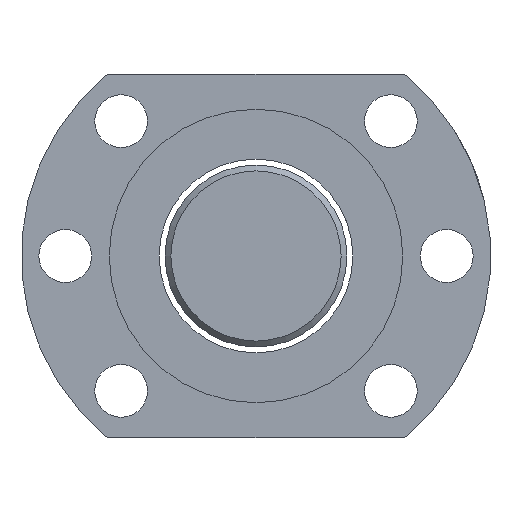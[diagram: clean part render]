
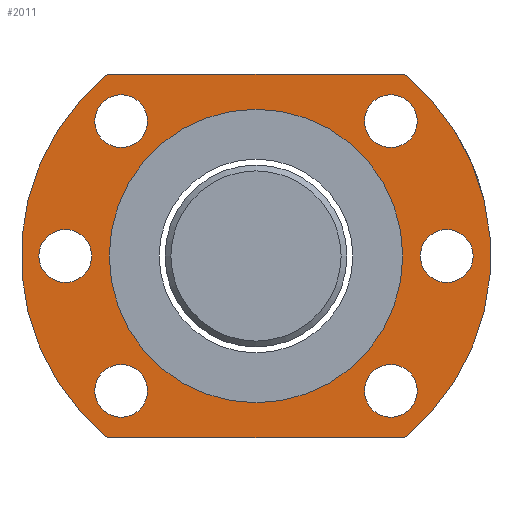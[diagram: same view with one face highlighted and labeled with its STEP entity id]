
A CAD part, left-side view. The second image highlights one B-rep face of the part: STEP entity #2011.
In plain terms, the highlighted planar face has unit normal (-1, 0, 0).
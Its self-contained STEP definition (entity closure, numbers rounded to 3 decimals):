
#3 = DIRECTION ( 'NONE',  ( 0., 0., 1. ) ) ;
#4 = CIRCLE ( 'NONE', #2417, 25. ) ;
#18 = DIRECTION ( 'NONE',  ( 0., 0., 1. ) ) ;
#48 = CARTESIAN_POINT ( 'NONE',  ( -57.175, -48.743, -3.875 ) ) ;
#78 = DIRECTION ( 'NONE',  ( 0., 0., 1. ) ) ;
#131 = AXIS2_PLACEMENT_3D ( 'NONE', #1188, #2405, #18 ) ;
#195 = CARTESIAN_POINT ( 'NONE',  ( -57.175, -71.724, 23.606 ) ) ;
#210 = AXIS2_PLACEMENT_3D ( 'NONE', #476, #719, #78 ) ;
#224 = DIRECTION ( 'NONE',  ( 0., 0., 1. ) ) ;
#256 = CIRCLE ( 'NONE', #1329, 40. ) ;
#270 = EDGE_CURVE ( 'NONE', #834, #834, #511, .T. ) ;
#334 = CARTESIAN_POINT ( 'NONE',  ( -57.175, -48.743, -3.875 ) ) ;
#364 = DIRECTION ( 'NONE',  ( -1., 0., 0. ) ) ;
#395 = CARTESIAN_POINT ( 'NONE',  ( -57.175, -71.724, -22.356 ) ) ;
#432 = EDGE_CURVE ( 'NONE', #1597, #470, #1745, .T. ) ;
#470 = VERTEX_POINT ( 'NONE', #1334 ) ;
#476 = CARTESIAN_POINT ( 'NONE',  ( -57.175, -25.762, 19.106 ) ) ;
#500 = ORIENTED_EDGE ( 'NONE', *, *, #2320, .T. ) ;
#511 = CIRCLE ( 'NONE', #210, 4.5 ) ;
#563 = ORIENTED_EDGE ( 'NONE', *, *, #1934, .T. ) ;
#576 = ORIENTED_EDGE ( 'NONE', *, *, #432, .T. ) ;
#583 = CARTESIAN_POINT ( 'NONE',  ( -57.175, -81.243, -3.875 ) ) ;
#608 = DIRECTION ( 'NONE',  ( 0., 0., 1. ) ) ;
#610 = VERTEX_POINT ( 'NONE', #882 ) ;
#615 = VERTEX_POINT ( 'NONE', #1930 ) ;
#660 = DIRECTION ( 'NONE',  ( 1., 0., 0. ) ) ;
#685 = EDGE_LOOP ( 'NONE', ( #985 ) ) ;
#719 = DIRECTION ( 'NONE',  ( -1., 0., 0. ) ) ;
#730 = CIRCLE ( 'NONE', #2172, 4.5 ) ;
#776 = EDGE_CURVE ( 'NONE', #470, #1251, #1345, .T. ) ;
#803 = AXIS2_PLACEMENT_3D ( 'NONE', #2478, #2132, #1519 ) ;
#816 = EDGE_LOOP ( 'NONE', ( #2469 ) ) ;
#834 = VERTEX_POINT ( 'NONE', #2423 ) ;
#835 = PLANE ( 'NONE',  #2509 ) ;
#882 = CARTESIAN_POINT ( 'NONE',  ( -57.175, -25.762, -22.356 ) ) ;
#908 = EDGE_CURVE ( 'NONE', #1206, #1206, #1232, .T. ) ;
#941 = DIRECTION ( 'NONE',  ( 0., 1., 0. ) ) ;
#959 = CARTESIAN_POINT ( 'NONE',  ( -57.175, -16.243, -3.875 ) ) ;
#985 = ORIENTED_EDGE ( 'NONE', *, *, #1769, .F. ) ;
#1017 = DIRECTION ( 'NONE',  ( -1., 0., 0. ) ) ;
#1018 = VERTEX_POINT ( 'NONE', #1283 ) ;
#1183 = CARTESIAN_POINT ( 'NONE',  ( -57.175, -74.021, 27.125 ) ) ;
#1188 = CARTESIAN_POINT ( 'NONE',  ( -57.175, -25.762, -26.856 ) ) ;
#1206 = VERTEX_POINT ( 'NONE', #395 ) ;
#1213 = CARTESIAN_POINT ( 'NONE',  ( -57.175, -71.724, 19.106 ) ) ;
#1232 = CIRCLE ( 'NONE', #2381, 4.5 ) ;
#1251 = VERTEX_POINT ( 'NONE', #1266 ) ;
#1266 = CARTESIAN_POINT ( 'NONE',  ( -57.175, -74.021, -34.875 ) ) ;
#1283 = CARTESIAN_POINT ( 'NONE',  ( -57.175, -81.243, 0.625 ) ) ;
#1329 = AXIS2_PLACEMENT_3D ( 'NONE', #334, #1771, #2168 ) ;
#1334 = CARTESIAN_POINT ( 'NONE',  ( -57.175, -23.464, -34.875 ) ) ;
#1345 = LINE ( 'NONE', #1780, #1826 ) ;
#1370 = AXIS2_PLACEMENT_3D ( 'NONE', #583, #1387, #2411 ) ;
#1387 = DIRECTION ( 'NONE',  ( 1., 0., 0. ) ) ;
#1403 = ORIENTED_EDGE ( 'NONE', *, *, #908, .T. ) ;
#1495 = VECTOR ( 'NONE', #941, 1000. ) ;
#1500 = ORIENTED_EDGE ( 'NONE', *, *, #1725, .F. ) ;
#1519 = DIRECTION ( 'NONE',  ( 0., 0., -1. ) ) ;
#1541 = EDGE_CURVE ( 'NONE', #2097, #2097, #1665, .T. ) ;
#1556 = DIRECTION ( 'NONE',  ( 0., -1., 0. ) ) ;
#1587 = EDGE_LOOP ( 'NONE', ( #500 ) ) ;
#1597 = VERTEX_POINT ( 'NONE', #2359 ) ;
#1606 = DIRECTION ( 'NONE',  ( -1., 0., 0. ) ) ;
#1618 = DIRECTION ( 'NONE',  ( 0., 0., -1. ) ) ;
#1621 = CARTESIAN_POINT ( 'NONE',  ( -57.175, -16.243, 0.625 ) ) ;
#1623 = FACE_BOUND ( 'NONE', #1878, .T. ) ;
#1632 = CARTESIAN_POINT ( 'NONE',  ( -57.175, -71.724, -26.856 ) ) ;
#1634 = CARTESIAN_POINT ( 'NONE',  ( -57.175, -48.743, -28.875 ) ) ;
#1665 = CIRCLE ( 'NONE', #2086, 4.5 ) ;
#1687 = EDGE_CURVE ( 'NONE', #2032, #2032, #730, .T. ) ;
#1697 = VERTEX_POINT ( 'NONE', #1634 ) ;
#1725 = EDGE_CURVE ( 'NONE', #610, #610, #2592, .T. ) ;
#1745 = CIRCLE ( 'NONE', #803, 40. ) ;
#1769 = EDGE_CURVE ( 'NONE', #1697, #1697, #4, .T. ) ;
#1771 = DIRECTION ( 'NONE',  ( -1., 0., 0. ) ) ;
#1780 = CARTESIAN_POINT ( 'NONE',  ( -57.175, -23.464, -34.875 ) ) ;
#1786 = EDGE_LOOP ( 'NONE', ( #1403 ) ) ;
#1826 = VECTOR ( 'NONE', #1556, 1000. ) ;
#1833 = CIRCLE ( 'NONE', #1370, 4.5 ) ;
#1878 = EDGE_LOOP ( 'NONE', ( #2591 ) ) ;
#1925 = ORIENTED_EDGE ( 'NONE', *, *, #776, .T. ) ;
#1930 = CARTESIAN_POINT ( 'NONE',  ( -57.175, -74.021, 27.125 ) ) ;
#1934 = EDGE_CURVE ( 'NONE', #1251, #615, #256, .T. ) ;
#2011 = ADVANCED_FACE ( 'NONE', ( #2243, #2451, #2611, #1623, #2412, #2229, #2049, #2623 ), #835, .T. ) ;
#2029 = EDGE_LOOP ( 'NONE', ( #1500 ) ) ;
#2032 = VERTEX_POINT ( 'NONE', #195 ) ;
#2049 = FACE_BOUND ( 'NONE', #1786, .T. ) ;
#2086 = AXIS2_PLACEMENT_3D ( 'NONE', #959, #364, #2184 ) ;
#2097 = VERTEX_POINT ( 'NONE', #1621 ) ;
#2099 = ORIENTED_EDGE ( 'NONE', *, *, #270, .F. ) ;
#2132 = DIRECTION ( 'NONE',  ( -1., 0., 0. ) ) ;
#2168 = DIRECTION ( 'NONE',  ( 0., 0., -1. ) ) ;
#2172 = AXIS2_PLACEMENT_3D ( 'NONE', #1213, #660, #3 ) ;
#2184 = DIRECTION ( 'NONE',  ( 0., 0., 1. ) ) ;
#2217 = CARTESIAN_POINT ( 'NONE',  ( -57.175, -48.743, -3.875 ) ) ;
#2229 = FACE_BOUND ( 'NONE', #2029, .T. ) ;
#2243 = FACE_BOUND ( 'NONE', #1587, .T. ) ;
#2292 = ORIENTED_EDGE ( 'NONE', *, *, #2367, .T. ) ;
#2320 = EDGE_CURVE ( 'NONE', #1018, #1018, #1833, .T. ) ;
#2359 = CARTESIAN_POINT ( 'NONE',  ( -57.175, -23.464, 27.125 ) ) ;
#2367 = EDGE_CURVE ( 'NONE', #615, #1597, #2599, .T. ) ;
#2381 = AXIS2_PLACEMENT_3D ( 'NONE', #1632, #2421, #608 ) ;
#2405 = DIRECTION ( 'NONE',  ( -1., 0., 0. ) ) ;
#2411 = DIRECTION ( 'NONE',  ( 0., 0., 1. ) ) ;
#2412 = FACE_BOUND ( 'NONE', #2488, .T. ) ;
#2417 = AXIS2_PLACEMENT_3D ( 'NONE', #48, #1017, #1618 ) ;
#2421 = DIRECTION ( 'NONE',  ( 1., 0., 0. ) ) ;
#2423 = CARTESIAN_POINT ( 'NONE',  ( -57.175, -25.762, 23.606 ) ) ;
#2451 = FACE_BOUND ( 'NONE', #685, .T. ) ;
#2469 = ORIENTED_EDGE ( 'NONE', *, *, #1687, .T. ) ;
#2474 = EDGE_LOOP ( 'NONE', ( #576, #1925, #563, #2292 ) ) ;
#2478 = CARTESIAN_POINT ( 'NONE',  ( -57.175, -48.743, -3.875 ) ) ;
#2488 = EDGE_LOOP ( 'NONE', ( #2099 ) ) ;
#2509 = AXIS2_PLACEMENT_3D ( 'NONE', #2217, #1606, #224 ) ;
#2591 = ORIENTED_EDGE ( 'NONE', *, *, #1541, .F. ) ;
#2592 = CIRCLE ( 'NONE', #131, 4.5 ) ;
#2599 = LINE ( 'NONE', #1183, #1495 ) ;
#2611 = FACE_OUTER_BOUND ( 'NONE', #2474, .T. ) ;
#2623 = FACE_BOUND ( 'NONE', #816, .T. ) ;
